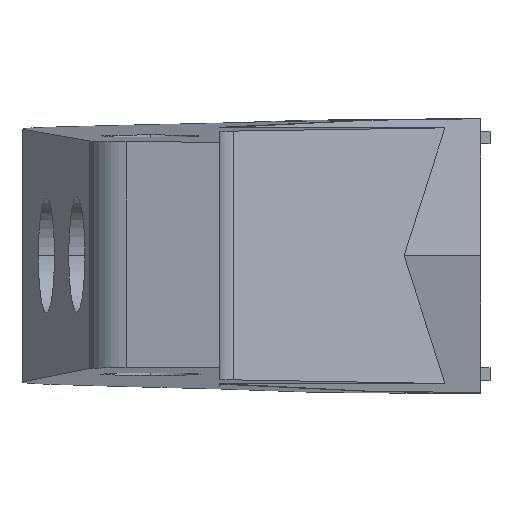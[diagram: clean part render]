
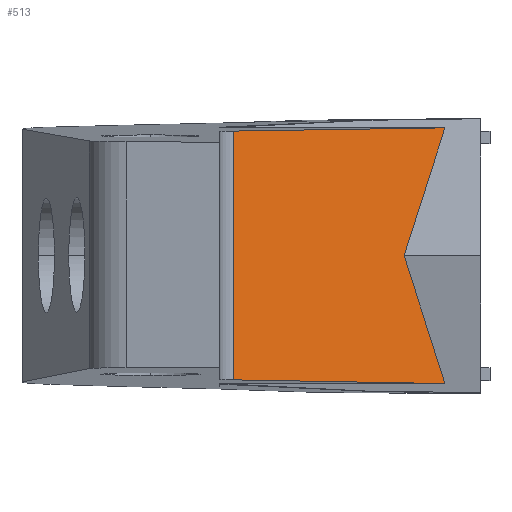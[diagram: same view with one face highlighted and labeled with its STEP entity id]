
A CAD part, top view. The second image highlights one B-rep face of the part: STEP entity #513.
In plain terms, the highlighted planar face has unit normal (0.53, 0, 0.848).
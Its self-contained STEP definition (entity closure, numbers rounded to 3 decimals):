
#21 = DIRECTION ( 'NONE',  ( 0.299, -0.936, -0.187 ) ) ;
#51 = LINE ( 'NONE', #1141, #673 ) ;
#103 = VECTOR ( 'NONE', #709, 1000. ) ;
#108 = AXIS2_PLACEMENT_3D ( 'NONE', #395, #1269, #704 ) ;
#114 = CARTESIAN_POINT ( 'NONE',  ( -54.524, 63.259, 24.902 ) ) ;
#144 = CARTESIAN_POINT ( 'NONE',  ( -61.088, 83.795, 29. ) ) ;
#236 = VERTEX_POINT ( 'NONE', #144 ) ;
#264 = ORIENTED_EDGE ( 'NONE', *, *, #1363, .T. ) ;
#270 = DIRECTION ( 'NONE',  ( -0.848, 0.014, 0.53 ) ) ;
#271 = EDGE_LOOP ( 'NONE', ( #756, #264, #573, #1078, #323 ) ) ;
#323 = ORIENTED_EDGE ( 'NONE', *, *, #384, .F. ) ;
#356 = DIRECTION ( 'NONE',  ( 0., -1., 0. ) ) ;
#384 = EDGE_CURVE ( 'NONE', #1160, #236, #635, .T. ) ;
#395 = CARTESIAN_POINT ( 'NONE',  ( -48.787, 61.795, 21.321 ) ) ;
#484 = CARTESIAN_POINT ( 'NONE',  ( -54.524, 63.259, 24.902 ) ) ;
#507 = CARTESIAN_POINT ( 'NONE',  ( -88.426, 63.813, 46.067 ) ) ;
#513 = ADVANCED_FACE ( 'NONE', ( #567 ), #1046, .F. ) ;
#523 = VERTEX_POINT ( 'NONE', #507 ) ;
#535 = VECTOR ( 'NONE', #21, 1000. ) ;
#567 = FACE_OUTER_BOUND ( 'NONE', #271, .T. ) ;
#573 = ORIENTED_EDGE ( 'NONE', *, *, #1003, .F. ) ;
#635 = LINE ( 'NONE', #912, #1060 ) ;
#673 = VECTOR ( 'NONE', #356, 1000. ) ;
#701 = DIRECTION ( 'NONE',  ( -0.299, -0.936, 0.187 ) ) ;
#704 = DIRECTION ( 'NONE',  ( -0.848, 0., 0.53 ) ) ;
#709 = DIRECTION ( 'NONE',  ( -0.848, -0.014, 0.53 ) ) ;
#735 = VERTEX_POINT ( 'NONE', #114 ) ;
#745 = CARTESIAN_POINT ( 'NONE',  ( -54.524, 104.332, 24.902 ) ) ;
#756 = ORIENTED_EDGE ( 'NONE', *, *, #1374, .T. ) ;
#840 = LINE ( 'NONE', #1036, #103 ) ;
#841 = LINE ( 'NONE', #484, #1010 ) ;
#912 = CARTESIAN_POINT ( 'NONE',  ( -54.524, 104.332, 24.902 ) ) ;
#1003 = EDGE_CURVE ( 'NONE', #735, #523, #841, .T. ) ;
#1010 = VECTOR ( 'NONE', #270, 1000. ) ;
#1036 = CARTESIAN_POINT ( 'NONE',  ( -54.524, 104.332, 24.902 ) ) ;
#1046 = PLANE ( 'NONE',  #108 ) ;
#1060 = VECTOR ( 'NONE', #701, 1000. ) ;
#1078 = ORIENTED_EDGE ( 'NONE', *, *, #1272, .F. ) ;
#1116 = LINE ( 'NONE', #1317, #535 ) ;
#1131 = CARTESIAN_POINT ( 'NONE',  ( -88.426, 103.777, 46.067 ) ) ;
#1141 = CARTESIAN_POINT ( 'NONE',  ( -88.426, 63.852, 46.067 ) ) ;
#1160 = VERTEX_POINT ( 'NONE', #745 ) ;
#1269 = DIRECTION ( 'NONE',  ( -0.53, 0., -0.848 ) ) ;
#1272 = EDGE_CURVE ( 'NONE', #236, #735, #1116, .T. ) ;
#1317 = CARTESIAN_POINT ( 'NONE',  ( -61.088, 83.795, 29. ) ) ;
#1359 = VERTEX_POINT ( 'NONE', #1131 ) ;
#1363 = EDGE_CURVE ( 'NONE', #1359, #523, #51, .T. ) ;
#1374 = EDGE_CURVE ( 'NONE', #1160, #1359, #840, .T. ) ;
